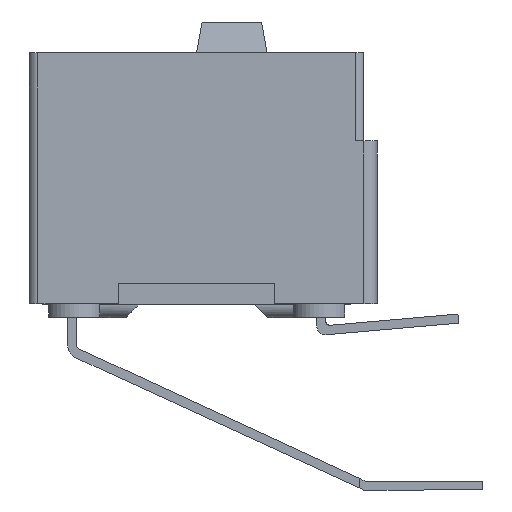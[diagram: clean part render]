
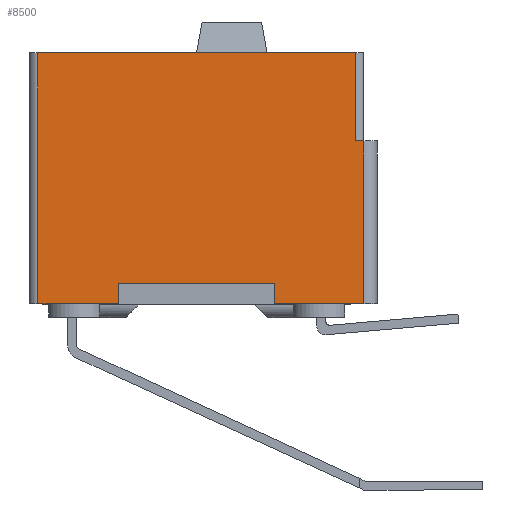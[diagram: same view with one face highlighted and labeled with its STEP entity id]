
A CAD part, left-side view. The second image highlights one B-rep face of the part: STEP entity #8500.
In plain terms, the highlighted planar face has unit normal (-1, 0, 0).
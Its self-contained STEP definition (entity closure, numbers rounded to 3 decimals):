
#40 = CARTESIAN_POINT ( 'NONE',  ( 0., -0.25, -7.239 ) ) ;
#593 = ORIENTED_EDGE ( 'NONE', *, *, #31846, .T. ) ;
#682 = ORIENTED_EDGE ( 'NONE', *, *, #19752, .F. ) ;
#689 = CARTESIAN_POINT ( 'NONE',  ( 0., -0.25, -7.239 ) ) ;
#889 = VERTEX_POINT ( 'NONE', #31364 ) ;
#1079 = EDGE_CURVE ( 'NONE', #1842, #13674, #28003, .T. ) ;
#1297 = DIRECTION ( 'NONE',  ( 0., -1., 0. ) ) ;
#1842 = VERTEX_POINT ( 'NONE', #34892 ) ;
#2052 = VECTOR ( 'NONE', #1297, 1000. ) ;
#2394 = EDGE_CURVE ( 'NONE', #33863, #31370, #20229, .T. ) ;
#2513 = ORIENTED_EDGE ( 'NONE', *, *, #2394, .T. ) ;
#2796 = LINE ( 'NONE', #30239, #5488 ) ;
#2887 = VECTOR ( 'NONE', #7212, 1000. ) ;
#3062 = VECTOR ( 'NONE', #6091, 1000. ) ;
#3165 = ORIENTED_EDGE ( 'NONE', *, *, #17486, .F. ) ;
#3382 = VERTEX_POINT ( 'NONE', #23825 ) ;
#3415 = CARTESIAN_POINT ( 'NONE',  ( 0., -2.576, -6.639 ) ) ;
#3428 = LINE ( 'NONE', #6297, #3444 ) ;
#3444 = VECTOR ( 'NONE', #9168, 1000. ) ;
#3559 = CARTESIAN_POINT ( 'NONE',  ( 0., -0.25, -7.239 ) ) ;
#4471 = CARTESIAN_POINT ( 'NONE',  ( 0., -0.25, -7.239 ) ) ;
#4536 = VERTEX_POINT ( 'NONE', #33057 ) ;
#5087 = LINE ( 'NONE', #26621, #7113 ) ;
#5488 = VECTOR ( 'NONE', #8697, 1000. ) ;
#5610 = DIRECTION ( 'NONE',  ( 0., -1., 0. ) ) ;
#5957 = LINE ( 'NONE', #40, #27650 ) ;
#6091 = DIRECTION ( 'NONE',  ( 0., 0., 1. ) ) ;
#6297 = CARTESIAN_POINT ( 'NONE',  ( 0., -9.652, -2.54 ) ) ;
#6844 = ORIENTED_EDGE ( 'NONE', *, *, #8058, .F. ) ;
#6968 = LINE ( 'NONE', #3559, #23721 ) ;
#7113 = VECTOR ( 'NONE', #15498, 1000. ) ;
#7212 = DIRECTION ( 'NONE',  ( 0., 0., 1. ) ) ;
#7529 = DIRECTION ( 'NONE',  ( 0., 1., 0. ) ) ;
#7763 = CARTESIAN_POINT ( 'NONE',  ( 0., -1.295, -7.239 ) ) ;
#7817 = DIRECTION ( 'NONE',  ( 0., 0., -1. ) ) ;
#8026 = EDGE_CURVE ( 'NONE', #31370, #3382, #17453, .T. ) ;
#8058 = EDGE_CURVE ( 'NONE', #21797, #889, #3428, .T. ) ;
#8221 = EDGE_CURVE ( 'NONE', #27817, #11875, #20854, .T. ) ;
#8448 = CARTESIAN_POINT ( 'NONE',  ( 0., -7.076, -6.639 ) ) ;
#8500 = ADVANCED_FACE ( 'NONE', ( #17941 ), #28864, .T. ) ;
#8697 = DIRECTION ( 'NONE',  ( 0., 1., 0. ) ) ;
#8866 = VECTOR ( 'NONE', #7817, 1000. ) ;
#9168 = DIRECTION ( 'NONE',  ( 0., 0., -1. ) ) ;
#9549 = LINE ( 'NONE', #29269, #2052 ) ;
#9857 = CARTESIAN_POINT ( 'NONE',  ( 0., -9.402, -2.54 ) ) ;
#10123 = CARTESIAN_POINT ( 'NONE',  ( 0., -9.652, -2.54 ) ) ;
#10217 = LINE ( 'NONE', #9857, #33844 ) ;
#10401 = ORIENTED_EDGE ( 'NONE', *, *, #1079, .F. ) ;
#10687 = CARTESIAN_POINT ( 'NONE',  ( 0., -7.076, -7.239 ) ) ;
#11172 = EDGE_CURVE ( 'NONE', #21797, #27817, #10217, .T. ) ;
#11266 = CARTESIAN_POINT ( 'NONE',  ( 0., -0.25, 0. ) ) ;
#11685 = DIRECTION ( 'NONE',  ( 0., -1., 0. ) ) ;
#11875 = VERTEX_POINT ( 'NONE', #25015 ) ;
#11986 = LINE ( 'NONE', #689, #3062 ) ;
#12405 = CARTESIAN_POINT ( 'NONE',  ( 0., -9.402, -7.239 ) ) ;
#13644 = VERTEX_POINT ( 'NONE', #7763 ) ;
#13674 = VERTEX_POINT ( 'NONE', #16201 ) ;
#14546 = CARTESIAN_POINT ( 'NONE',  ( 0., -9.402, -2.54 ) ) ;
#15419 = DIRECTION ( 'NONE',  ( -1., 0., 0. ) ) ;
#15498 = DIRECTION ( 'NONE',  ( 0., -1., 0. ) ) ;
#16201 = CARTESIAN_POINT ( 'NONE',  ( 0., -2.576, -7.239 ) ) ;
#17453 = LINE ( 'NONE', #22825, #23516 ) ;
#17486 = EDGE_CURVE ( 'NONE', #33863, #1842, #2796, .T. ) ;
#17861 = ORIENTED_EDGE ( 'NONE', *, *, #29148, .T. ) ;
#17941 = FACE_OUTER_BOUND ( 'NONE', #33602, .T. ) ;
#18067 = ORIENTED_EDGE ( 'NONE', *, *, #8221, .T. ) ;
#18365 = ORIENTED_EDGE ( 'NONE', *, *, #24585, .T. ) ;
#18867 = EDGE_CURVE ( 'NONE', #4536, #22540, #11986, .T. ) ;
#19752 = EDGE_CURVE ( 'NONE', #22540, #11875, #5087, .T. ) ;
#20229 = LINE ( 'NONE', #33825, #35057 ) ;
#20270 = DIRECTION ( 'NONE',  ( 0., -1., 0. ) ) ;
#20854 = LINE ( 'NONE', #12405, #2887 ) ;
#21797 = VERTEX_POINT ( 'NONE', #10123 ) ;
#22540 = VERTEX_POINT ( 'NONE', #11266 ) ;
#22825 = CARTESIAN_POINT ( 'NONE',  ( 0., -0.25, -7.239 ) ) ;
#23516 = VECTOR ( 'NONE', #11685, 1000. ) ;
#23540 = AXIS2_PLACEMENT_3D ( 'NONE', #4471, #15419, #31911 ) ;
#23721 = VECTOR ( 'NONE', #20270, 1000. ) ;
#23825 = CARTESIAN_POINT ( 'NONE',  ( 0., -8.357, -7.239 ) ) ;
#24049 = ORIENTED_EDGE ( 'NONE', *, *, #11172, .T. ) ;
#24585 = EDGE_CURVE ( 'NONE', #4536, #13644, #9549, .T. ) ;
#25015 = CARTESIAN_POINT ( 'NONE',  ( 0., -9.402, 0. ) ) ;
#26621 = CARTESIAN_POINT ( 'NONE',  ( 0., -0.25, 0. ) ) ;
#27650 = VECTOR ( 'NONE', #5610, 1000. ) ;
#27817 = VERTEX_POINT ( 'NONE', #14546 ) ;
#28003 = LINE ( 'NONE', #3415, #8866 ) ;
#28282 = DIRECTION ( 'NONE',  ( 0., 0., -1. ) ) ;
#28864 = PLANE ( 'NONE',  #23540 ) ;
#29148 = EDGE_CURVE ( 'NONE', #3382, #889, #6968, .T. ) ;
#29269 = CARTESIAN_POINT ( 'NONE',  ( 0., -0.25, -7.239 ) ) ;
#29653 = ORIENTED_EDGE ( 'NONE', *, *, #18867, .F. ) ;
#30239 = CARTESIAN_POINT ( 'NONE',  ( 0., -2.576, -6.639 ) ) ;
#31364 = CARTESIAN_POINT ( 'NONE',  ( 0., -9.652, -7.239 ) ) ;
#31370 = VERTEX_POINT ( 'NONE', #10687 ) ;
#31846 = EDGE_CURVE ( 'NONE', #13644, #13674, #5957, .T. ) ;
#31911 = DIRECTION ( 'NONE',  ( 0., -1., 0. ) ) ;
#33057 = CARTESIAN_POINT ( 'NONE',  ( 0., -0.25, -7.239 ) ) ;
#33166 = ORIENTED_EDGE ( 'NONE', *, *, #8026, .T. ) ;
#33602 = EDGE_LOOP ( 'NONE', ( #10401, #3165, #2513, #33166, #17861, #6844, #24049, #18067, #682, #29653, #18365, #593 ) ) ;
#33825 = CARTESIAN_POINT ( 'NONE',  ( 0., -7.076, -6.639 ) ) ;
#33844 = VECTOR ( 'NONE', #7529, 1000. ) ;
#33863 = VERTEX_POINT ( 'NONE', #8448 ) ;
#34892 = CARTESIAN_POINT ( 'NONE',  ( 0., -2.576, -6.639 ) ) ;
#35057 = VECTOR ( 'NONE', #28282, 1000. ) ;
